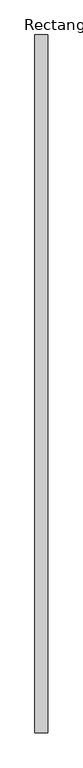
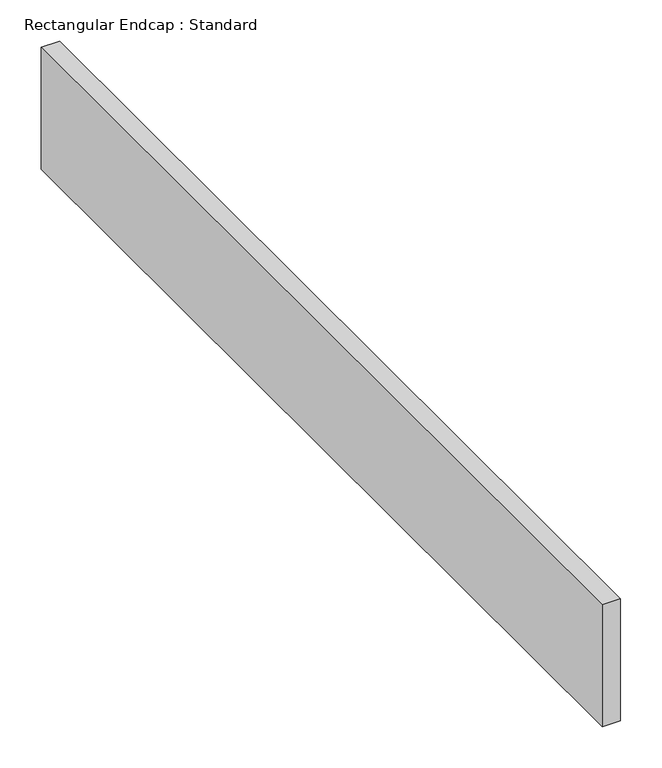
"""IFC4 building model written with IfcOpenShell, lengths in millimetres: duct fitting geometry, Rectangular Endcap : Standard."""

from ifc_helpers import new_model, si_unit, frame, origin, place, context, project, spatial, polyline, outline, extrude, source, transform, mapped, element, save


def rectangular_endcap_standard_3ad2bc23(model_context):
    return source(origin(), model_context, "Body", "SweptSolid", [
        extrude(outline(polyline([(0.0, -677.8625), (0.0, 677.8625), (25.4, 677.8625), (25.4, -677.8625), (0.0, -677.8625)])), frame((0.0, 0.0, -89.69375), z_axis=(0.0, 0.0, 1.0), x_axis=(1.0, 0.0, 0.0)), (0.0, 0.0, 1.0), 179.3875),
    ])


if __name__ == "__main__":
    model = new_model("IFC4")
    model_context = context("Model", 3, world=origin())
    ifc_project = project(units=[si_unit("LENGTHUNIT", "METRE", prefix="MILLI")], contexts=[model_context])
    site = spatial("IfcSite", under=ifc_project)
    building = spatial("IfcBuilding", under=site)
    placement = place(None, origin())
    rectangular_endcap_standard_shape = rectangular_endcap_standard_3ad2bc23(model_context)
    element("IfcDuctFitting", 1, ObjectType="Rectangular Endcap : Standard", at=placement, inside=building, context=model_context, shape_type="MappedRepresentation", body=[
        mapped(rectangular_endcap_standard_shape, transform((0.0, 0.0, 0.0), x_axis=(1.0, 0.0, 0.0), y_axis=(0.0, 1.0, 0.0), z_axis=(0.0, 0.0, 1.0))),
    ])
    save(model, "model.ifc")
